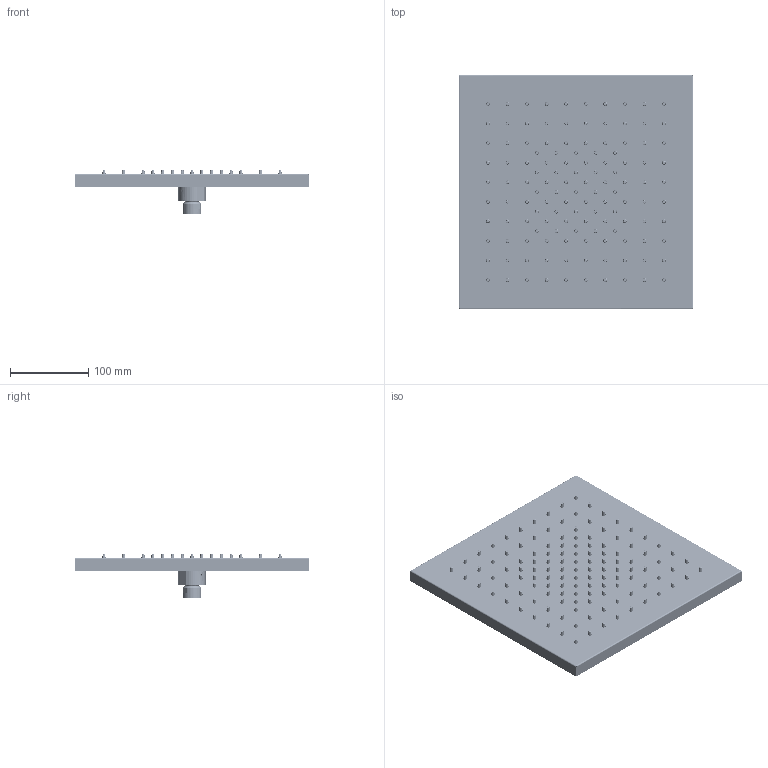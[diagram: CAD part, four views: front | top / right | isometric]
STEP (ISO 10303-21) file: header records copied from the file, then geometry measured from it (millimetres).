
FILE_DESCRIPTION((''),'2;1');
FILE_NAME('K053_ASM','2022-07-08T11:48:59',('Elia'),(''),'CREO PARAMETRIC BY PTC INC, 2021424','CREO PARAMETRIC BY PTC INC, 2021424','');
FILE_SCHEMA(('AUTOMOTIVE_DESIGN { 1 0 10303 214 1 1 1 1 }'));
Length unit declared in the file: millimetre
Products named in the file (13): ISO_7046-1_-_M3_X_10_-_Z_-_10N_; 00005559_TUTTO; 00005581_TUTTO_ASM; 00005486_TUTTO; 00005484_TUTTO; 00005485_TUTTO; SOCKET_SET_SCREW_CONE_POINT_1_I; 00005487_TUTTO_ASM; 00004960_TUTTO; 00005558_TUTTO_ASM; 00005560_TUTTO; K053_TUTTO_ASM; K053_ASM
Assembly tree (143 placements, depth 4):
  K053_ASM
    K053_TUTTO_ASM
      ISO_7046-1_-_M3_X_10_-_Z_-_10N_  x8
      00005581_TUTTO_ASM
        00005559_TUTTO
      00005487_TUTTO_ASM
        00005486_TUTTO
        00005484_TUTTO
        00005485_TUTTO
        SOCKET_SET_SCREW_CONE_POINT_1_I
      00005558_TUTTO_ASM
        00004960_TUTTO  x125
      00005560_TUTTO
Bounding box: 300 x 300 x 56.3 mm (x, y, z)
Volume: 224039.3 mm3; surface area: 450154.3 mm2
Topology: 139 solids, 139 shells, 4256 faces, 8922 edges, 5439 vertices
Faces by surface type: cylinder 1331, torus 1030, plane 991, cone 892, bspline 12
Entity records: 21988 total; most frequent: CARTESIAN_POINT 5099, DIRECTION 3778, ORIENTED_EDGE 2632, AXIS2_PLACEMENT_3D 1616, EDGE_CURVE 1316, VERTEX_POINT 845, EDGE_LOOP 785, CIRCLE 750
